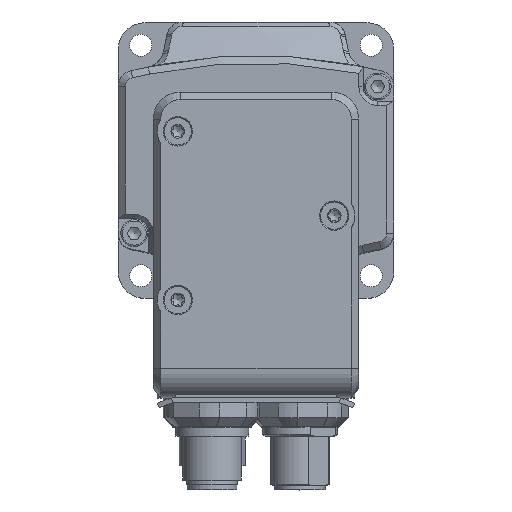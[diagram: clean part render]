
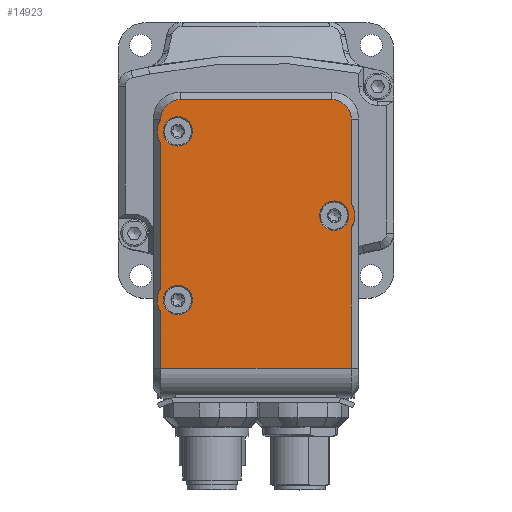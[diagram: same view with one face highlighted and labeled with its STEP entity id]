
A CAD part, top view. The second image highlights one B-rep face of the part: STEP entity #14923.
In plain terms, the highlighted planar face has unit normal (0, 0, 1).
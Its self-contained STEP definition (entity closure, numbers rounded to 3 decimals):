
#962=FACE_BOUND('',#4345,.T.);
#963=FACE_BOUND('',#4346,.T.);
#964=FACE_BOUND('',#4347,.T.);
#1250=LINE('',#22711,#2214);
#1261=LINE('',#22781,#2225);
#1262=LINE('',#22784,#2226);
#1263=LINE('',#22786,#2227);
#1264=LINE('',#22790,#2228);
#1265=LINE('',#22794,#2229);
#1266=LINE('',#22798,#2230);
#2214=VECTOR('',#18121,10.);
#2225=VECTOR('',#18200,10.);
#2226=VECTOR('',#18203,10.);
#2227=VECTOR('',#18204,10.);
#2228=VECTOR('',#18207,10.);
#2229=VECTOR('',#18210,10.);
#2230=VECTOR('',#18213,10.);
#3056=PLANE('',#15994);
#3480=FACE_OUTER_BOUND('',#4344,.T.);
#4344=EDGE_LOOP('',(#10396,#10397,#10398,#10399,#10400,#10401,#10402,#10403,
#10404,#10405,#10406,#10407));
#4345=EDGE_LOOP('',(#10408));
#4346=EDGE_LOOP('',(#10409));
#4347=EDGE_LOOP('',(#10410));
#5282=CIRCLE('',#15983,3.);
#5285=CIRCLE('',#15987,3.);
#5288=CIRCLE('',#15991,3.);
#5291=CIRCLE('',#15995,4.25);
#5292=CIRCLE('',#15996,4.25);
#5293=CIRCLE('',#15997,3.993);
#5294=CIRCLE('',#15998,3.993);
#5295=CIRCLE('',#15999,4.25);
#6239=VERTEX_POINT('',#22708);
#6240=VERTEX_POINT('',#22710);
#6255=VERTEX_POINT('',#22755);
#6258=VERTEX_POINT('',#22763);
#6261=VERTEX_POINT('',#22771);
#6264=VERTEX_POINT('',#22779);
#6265=VERTEX_POINT('',#22780);
#6266=VERTEX_POINT('',#22782);
#6267=VERTEX_POINT('',#22785);
#6268=VERTEX_POINT('',#22787);
#6269=VERTEX_POINT('',#22789);
#6270=VERTEX_POINT('',#22791);
#6271=VERTEX_POINT('',#22793);
#6272=VERTEX_POINT('',#22795);
#6273=VERTEX_POINT('',#22797);
#7799=EDGE_CURVE('',#6239,#6240,#1250,.T.);
#7821=EDGE_CURVE('',#6255,#6255,#5282,.T.);
#7825=EDGE_CURVE('',#6258,#6258,#5285,.T.);
#7829=EDGE_CURVE('',#6261,#6261,#5288,.T.);
#7833=EDGE_CURVE('',#6264,#6265,#1261,.T.);
#7834=EDGE_CURVE('',#6266,#6264,#5291,.T.);
#7835=EDGE_CURVE('',#6240,#6266,#1262,.T.);
#7836=EDGE_CURVE('',#6267,#6239,#1263,.T.);
#7837=EDGE_CURVE('',#6268,#6267,#5292,.T.);
#7838=EDGE_CURVE('',#6269,#6268,#1264,.T.);
#7839=EDGE_CURVE('',#6270,#6269,#5293,.T.);
#7840=EDGE_CURVE('',#6271,#6270,#1265,.T.);
#7841=EDGE_CURVE('',#6272,#6271,#5294,.T.);
#7842=EDGE_CURVE('',#6273,#6272,#1266,.T.);
#7843=EDGE_CURVE('',#6265,#6273,#5295,.T.);
#10396=ORIENTED_EDGE('',*,*,#7833,.F.);
#10397=ORIENTED_EDGE('',*,*,#7834,.F.);
#10398=ORIENTED_EDGE('',*,*,#7835,.F.);
#10399=ORIENTED_EDGE('',*,*,#7799,.F.);
#10400=ORIENTED_EDGE('',*,*,#7836,.F.);
#10401=ORIENTED_EDGE('',*,*,#7837,.F.);
#10402=ORIENTED_EDGE('',*,*,#7838,.F.);
#10403=ORIENTED_EDGE('',*,*,#7839,.F.);
#10404=ORIENTED_EDGE('',*,*,#7840,.F.);
#10405=ORIENTED_EDGE('',*,*,#7841,.F.);
#10406=ORIENTED_EDGE('',*,*,#7842,.F.);
#10407=ORIENTED_EDGE('',*,*,#7843,.F.);
#10408=ORIENTED_EDGE('',*,*,#7825,.T.);
#10409=ORIENTED_EDGE('',*,*,#7821,.T.);
#10410=ORIENTED_EDGE('',*,*,#7829,.T.);
#14923=ADVANCED_FACE('',(#3480,#962,#963,#964),#3056,.T.);
#15983=AXIS2_PLACEMENT_3D('',#22756,#18173,#18174);
#15987=AXIS2_PLACEMENT_3D('',#22764,#18182,#18183);
#15991=AXIS2_PLACEMENT_3D('',#22772,#18191,#18192);
#15994=AXIS2_PLACEMENT_3D('',#22778,#18198,#18199);
#15995=AXIS2_PLACEMENT_3D('',#22783,#18201,#18202);
#15996=AXIS2_PLACEMENT_3D('',#22788,#18205,#18206);
#15997=AXIS2_PLACEMENT_3D('',#22792,#18208,#18209);
#15998=AXIS2_PLACEMENT_3D('',#22796,#18211,#18212);
#15999=AXIS2_PLACEMENT_3D('',#22799,#18214,#18215);
#18121=DIRECTION('',(-1.,0.,0.));
#18173=DIRECTION('center_axis',(0.,0.,
-1.));
#18174=DIRECTION('ref_axis',(0.,1.,0.));
#18182=DIRECTION('center_axis',(0.,0.,
-1.));
#18183=DIRECTION('ref_axis',(0.,1.,0.));
#18191=DIRECTION('center_axis',(0.,0.,
-1.));
#18192=DIRECTION('ref_axis',(0.,1.,0.));
#18198=DIRECTION('center_axis',(0.,0.,
1.));
#18199=DIRECTION('ref_axis',(-1.,0.,0.));
#18200=DIRECTION('',(0.,1.,0.));
#18201=DIRECTION('center_axis',(0.,0.,
-1.));
#18202=DIRECTION('ref_axis',(0.,1.,0.));
#18203=DIRECTION('',(0.,1.,0.));
#18204=DIRECTION('',(0.,-1.,0.));
#18205=DIRECTION('center_axis',(0.,0.,
-1.));
#18206=DIRECTION('ref_axis',(0.,1.,0.));
#18207=DIRECTION('',(0.,-1.,0.));
#18208=DIRECTION('center_axis',(0.,0.,
-1.));
#18209=DIRECTION('ref_axis',(0.707,0.707,0.));
#18210=DIRECTION('',(1.,0.,0.));
#18211=DIRECTION('center_axis',(0.,0.,
-1.));
#18212=DIRECTION('ref_axis',(-0.707,0.707,0.));
#18213=DIRECTION('',(0.,1.,0.));
#18214=DIRECTION('center_axis',(0.,0.,
-1.));
#18215=DIRECTION('ref_axis',(0.,1.,0.));
#22708=CARTESIAN_POINT('',(19.493,-42.7,105.99));
#22710=CARTESIAN_POINT('',(-19.493,-42.7,105.99));
#22711=CARTESIAN_POINT('',(21.,-42.7,105.99));
#22755=CARTESIAN_POINT('',(-16.,2.8,105.99));
#22756=CARTESIAN_POINT('Origin',(-16.,5.8,105.99));
#22763=CARTESIAN_POINT('',(-16.,-31.7,105.99));
#22764=CARTESIAN_POINT('Origin',(-16.,-28.7,105.99));
#22771=CARTESIAN_POINT('',(16.,-14.45,105.99));
#22772=CARTESIAN_POINT('Origin',(16.,-11.45,105.99));
#22778=CARTESIAN_POINT('Origin',(16.,-11.45,105.99));
#22779=CARTESIAN_POINT('',(-19.493,-26.279,105.99));
#22780=CARTESIAN_POINT('',(-19.493,3.379,105.99));
#22781=CARTESIAN_POINT('',(-19.493,-39.667,105.99));
#22782=CARTESIAN_POINT('',(-19.493,-31.121,105.99));
#22783=CARTESIAN_POINT('Origin',(-16.,-28.7,105.99));
#22784=CARTESIAN_POINT('',(-19.493,-39.667,105.99));
#22785=CARTESIAN_POINT('',(19.493,-13.871,105.99));
#22786=CARTESIAN_POINT('',(19.493,-39.667,105.99));
#22787=CARTESIAN_POINT('',(19.493,-9.029,105.99));
#22788=CARTESIAN_POINT('Origin',(16.,-11.45,105.99));
#22789=CARTESIAN_POINT('',(19.493,8.3,105.99));
#22790=CARTESIAN_POINT('',(19.493,-39.667,105.99));
#22791=CARTESIAN_POINT('',(15.5,12.293,105.99));
#22792=CARTESIAN_POINT('Origin',(15.5,8.3,105.99));
#22793=CARTESIAN_POINT('',(-15.5,12.293,105.99));
#22794=CARTESIAN_POINT('',(21.,12.293,105.99));
#22795=CARTESIAN_POINT('',(-19.493,8.3,105.99));
#22796=CARTESIAN_POINT('Origin',(-15.5,8.3,105.99));
#22797=CARTESIAN_POINT('',(-19.493,8.221,105.99));
#22798=CARTESIAN_POINT('',(-19.493,-39.667,105.99));
#22799=CARTESIAN_POINT('Origin',(-16.,5.8,105.99));
